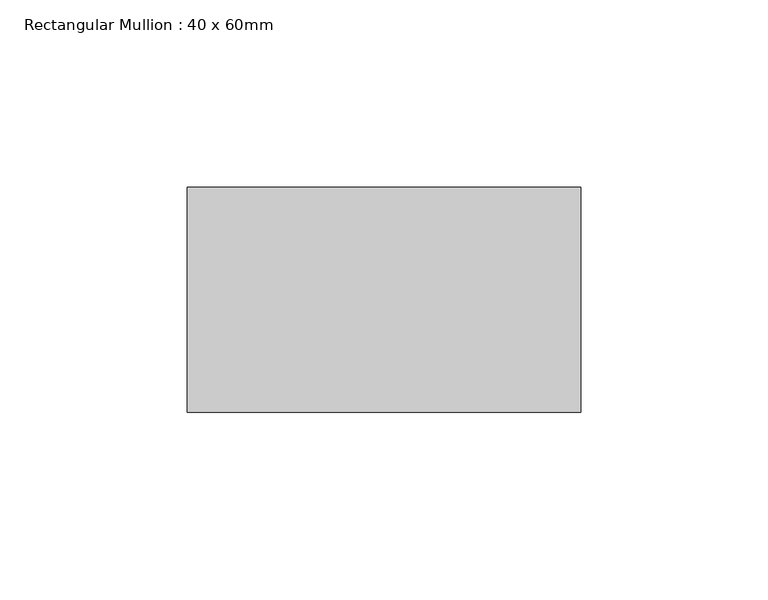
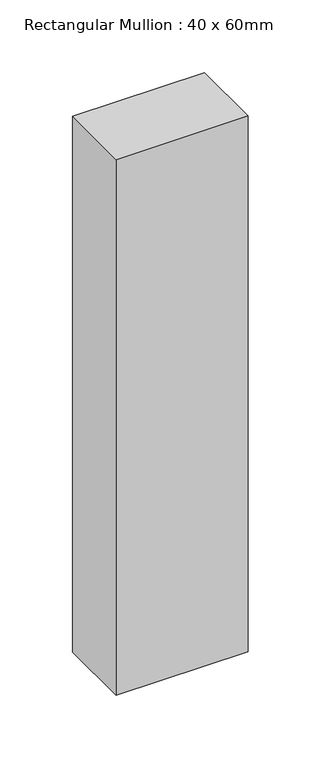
"""IFC4 building model written with IfcOpenShell, lengths in millimetres: member geometry, Rectangular Mullion : 40 x 60mm."""

from ifc_helpers import new_model, si_unit, frame, origin, place, context, project, spatial, polyline, outline, extrude, source, transform, mapped, element, save


def rectangular_mullion_40_x_60mm_e30bd602(model_context):
    return source(origin(), model_context, "Body", "SweptSolid", [
        extrude(outline(polyline([(80.0, -10.0), (80.0, -70.0), (-25.0, -70.0), (-25.0, -10.0), (80.0, -10.0)])), frame((0.0, 0.0, -450.0), z_axis=(0.0, 0.0, 1.0), x_axis=(1.0, 0.0, 0.0)), (0.0, 0.0, 1.0), 450.0),
    ])


if __name__ == "__main__":
    model = new_model("IFC4")
    model_context = context("Model", 3, world=origin())
    ifc_project = project(units=[si_unit("LENGTHUNIT", "METRE", prefix="MILLI")], contexts=[model_context])
    site = spatial("IfcSite", under=ifc_project)
    building = spatial("IfcBuilding", under=site)
    placement = place(None, origin())
    rectangular_mullion_40_x_60mm_shape = rectangular_mullion_40_x_60mm_e30bd602(model_context)
    element("IfcMember", 1, ObjectType="Rectangular Mullion : 40 x 60mm", at=placement, inside=building, context=model_context, shape_type="MappedRepresentation", body=[
        mapped(rectangular_mullion_40_x_60mm_shape, transform((0.0, 0.0, 0.0), x_axis=(1.0, 0.0, 0.0), y_axis=(0.0, 1.0, 0.0), z_axis=(0.0, 0.0, 1.0))),
    ])
    save(model, "model.ifc")
